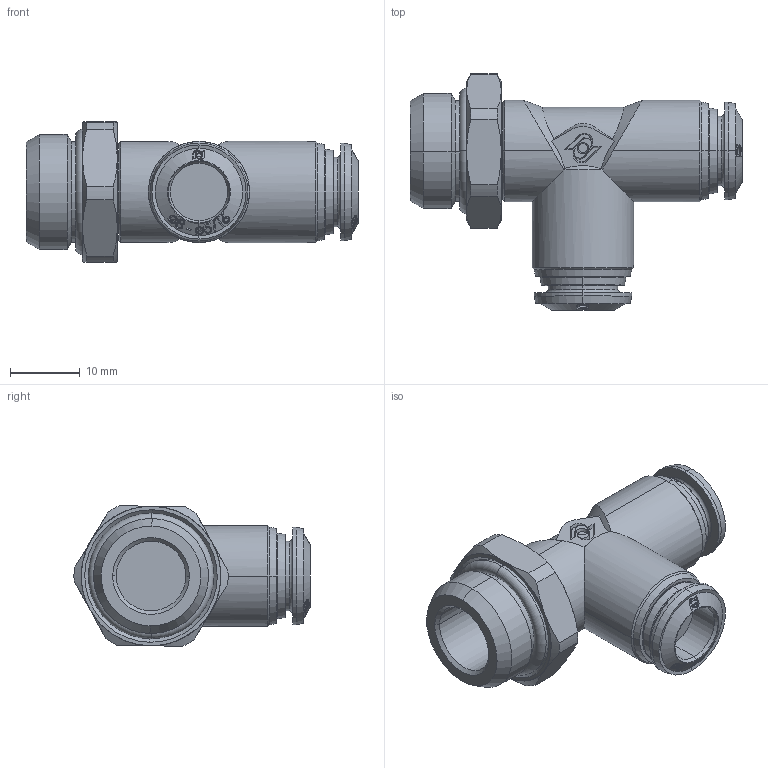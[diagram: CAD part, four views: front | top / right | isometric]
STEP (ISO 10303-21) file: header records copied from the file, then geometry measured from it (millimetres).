
FILE_DESCRIPTION (( 'STEP AP214' ), '1' );
FILE_NAME ('5022600012.step', '2012-10-01T16:51:19', ( '' ), ( '' ), 'SwSTEP 2.0', 'SolidWorks 2012', '' );
FILE_SCHEMA (( 'AUTOMOTIVE_DESIGN' ));
Length unit declared in the file: millimetre
Products named in the file (1): 5022600012
Bounding box: 47.6 x 33.85 x 20.17 mm (x, y, z)
Volume: 9650.7 mm3; surface area: 5207 mm2
Topology: 2 solids, 2 shells, 459 faces, 1180 edges, 770 vertices
Faces by surface type: bspline 226, cone 116, plane 56, cylinder 39, torus 22
Entity records: 26183 total; most frequent: CARTESIAN_POINT 17032, ORIENTED_EDGE 2360, EDGE_CURVE 1180, DIRECTION 1068, B_SPLINE_CURVE_WITH_KNOTS 786, VERTEX_POINT 770, EDGE_LOOP 506, FACE_OUTER_BOUND 459
